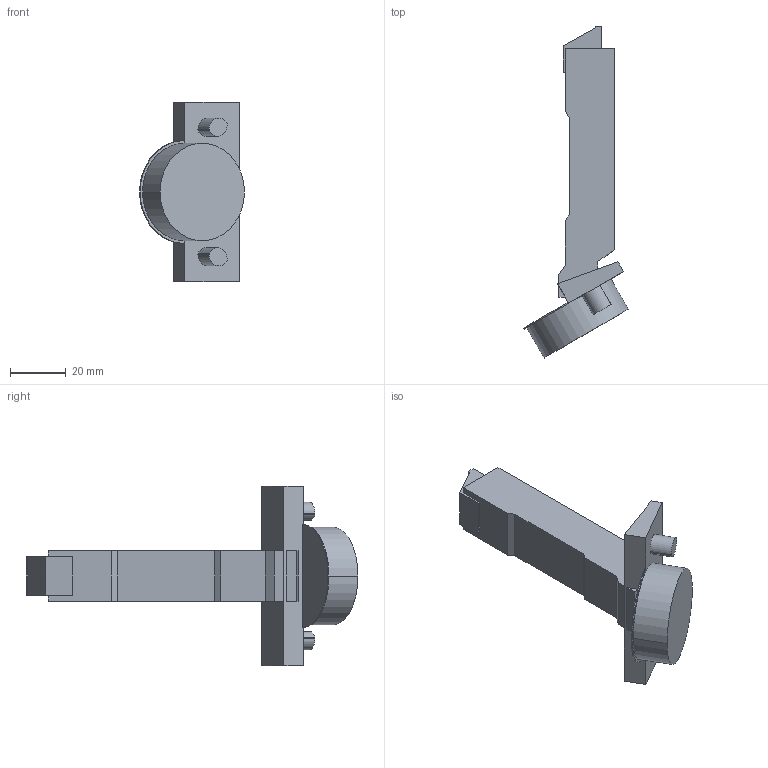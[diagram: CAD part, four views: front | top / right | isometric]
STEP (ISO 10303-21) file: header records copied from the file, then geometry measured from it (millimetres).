
FILE_DESCRIPTION (( 'STEP AP214' ), '1' );
FILE_NAME ('Scharnier T Impresso 120°_-30° MB_BB, aufliegend - Neu -.step', '2019-09-17T09:44:34', ( '' ), ( '' ), 'SwSTEP 2.0', 'SolidWorks 2019', '' );
FILE_SCHEMA (( 'AUTOMOTIVE_DESIGN' ));
Length unit declared in the file: millimetre
Products named in the file (1): Scharnier T Impresso 120°_-30° MB_BB, aufliegend - Neu -
Bounding box: 37.68 x 119.25 x 64.5 mm (x, y, z)
Volume: 47603.5 mm3; surface area: 13125.1 mm2
Topology: 1 solids, 1 shells, 55 faces, 135 edges, 90 vertices
Faces by surface type: plane 40, cylinder 15
Entity records: 1653 total; most frequent: CARTESIAN_POINT 281, DIRECTION 277, ORIENTED_EDGE 270, EDGE_CURVE 135, LINE 105, VECTOR 105, VERTEX_POINT 90, AXIS2_PLACEMENT_3D 86
